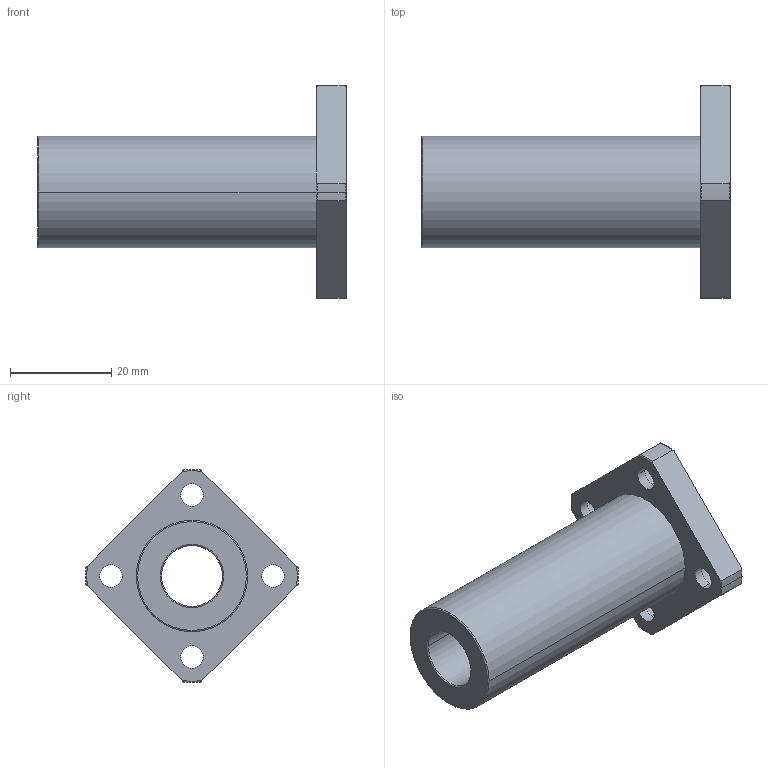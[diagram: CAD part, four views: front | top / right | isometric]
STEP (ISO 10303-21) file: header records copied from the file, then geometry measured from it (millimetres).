
FILE_DESCRIPTION(('FreeCAD Model'),'2;1');
FILE_NAME('Open CASCADE Shape Model','2021-05-03T14:59:35',('Author'),( ''),'Open CASCADE STEP processor 7.5','FreeCAD','Unknown');
FILE_SCHEMA(('AUTOMOTIVE_DESIGN { 1 0 10303 214 1 1 1 1 }'));
Length unit declared in the file: millimetre
Products named in the file (1): linear_lmek12luu
Bounding box: 61 x 42 x 42 mm (x, y, z)
Volume: 19239.4 mm3; surface area: 8983.5 mm2
Topology: 1 solids, 1 shells, 55 faces, 147 edges, 99 vertices
Faces by surface type: cylinder 26, torus 18, plane 11
Entity records: 4837 total; most frequent: CARTESIAN_POINT 1912, DIRECTION 560, ORIENTED_EDGE 294, PCURVE 294, DEFINITIONAL_REPRESENTATION 294, LINE 245, VECTOR 245, AXIS2_PLACEMENT_3D 149
